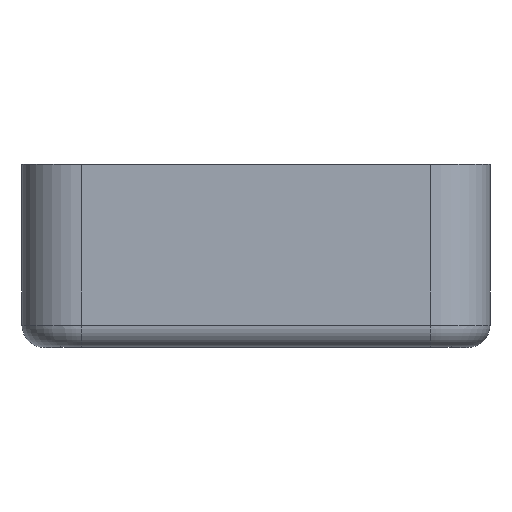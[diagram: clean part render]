
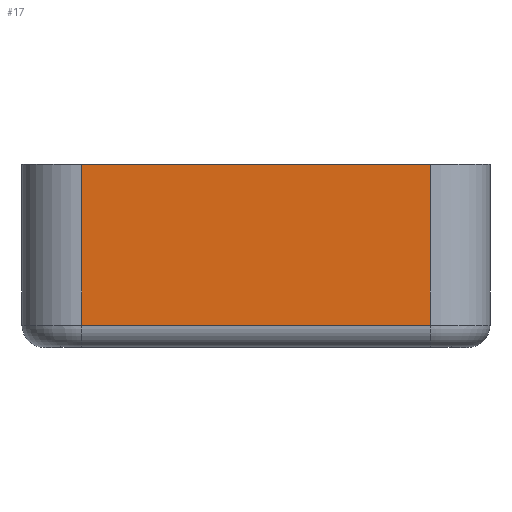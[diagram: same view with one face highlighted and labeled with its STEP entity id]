
A CAD part, left-side view. The second image highlights one B-rep face of the part: STEP entity #17.
In plain terms, the highlighted planar face has unit normal (-1, 0, 0).
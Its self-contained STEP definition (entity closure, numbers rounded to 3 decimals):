
#17 = ADVANCED_FACE('',(#18),#32,.T.);
#18 = FACE_BOUND('',#19,.T.);
#19 = EDGE_LOOP('',(#20,#55,#83,#111));
#20 = ORIENTED_EDGE('',*,*,#21,.T.);
#21 = EDGE_CURVE('',#22,#24,#26,.T.);
#22 = VERTEX_POINT('',#23);
#23 = CARTESIAN_POINT('',(-1.6,-75.895,-16.145));
#24 = VERTEX_POINT('',#25);
#25 = CARTESIAN_POINT('',(-1.6,-75.895,-5.395));
#26 = SURFACE_CURVE('',#27,(#31,#43),.PCURVE_S1.);
#27 = LINE('',#28,#29);
#28 = CARTESIAN_POINT('',(-1.6,-75.895,-17.645));
#29 = VECTOR('',#30,1.);
#30 = DIRECTION('',(0.,0.,1.));
#31 = PCURVE('',#32,#37);
#32 = PLANE('',#33);
#33 = AXIS2_PLACEMENT_3D('',#34,#35,#36);
#34 = CARTESIAN_POINT('',(-1.6,-75.895,-17.645));
#35 = DIRECTION('',(-1.,0.,0.));
#36 = DIRECTION('',(0.,1.,0.));
#37 = DEFINITIONAL_REPRESENTATION('',(#38),#42);
#38 = LINE('',#39,#40);
#39 = CARTESIAN_POINT('',(0.,0.));
#40 = VECTOR('',#41,1.);
#41 = DIRECTION('',(0.,-1.));
#42 = ( GEOMETRIC_REPRESENTATION_CONTEXT(2) 
PARAMETRIC_REPRESENTATION_CONTEXT() REPRESENTATION_CONTEXT('2D SPACE',''
  ) );
#43 = PCURVE('',#44,#49);
#44 = CYLINDRICAL_SURFACE('',#45,4.);
#45 = AXIS2_PLACEMENT_3D('',#46,#47,#48);
#46 = CARTESIAN_POINT('',(2.4,-75.895,-17.645));
#47 = DIRECTION('',(-0.,-0.,-1.));
#48 = DIRECTION('',(1.,0.,0.));
#49 = DEFINITIONAL_REPRESENTATION('',(#50),#54);
#50 = LINE('',#51,#52);
#51 = CARTESIAN_POINT('',(-3.142,0.));
#52 = VECTOR('',#53,1.);
#53 = DIRECTION('',(-0.,-1.));
#54 = ( GEOMETRIC_REPRESENTATION_CONTEXT(2) 
PARAMETRIC_REPRESENTATION_CONTEXT() REPRESENTATION_CONTEXT('2D SPACE',''
  ) );
#55 = ORIENTED_EDGE('',*,*,#56,.T.);
#56 = EDGE_CURVE('',#24,#57,#59,.T.);
#57 = VERTEX_POINT('',#58);
#58 = CARTESIAN_POINT('',(-1.6,-52.595,-5.395));
#59 = SURFACE_CURVE('',#60,(#64,#71),.PCURVE_S1.);
#60 = LINE('',#61,#62);
#61 = CARTESIAN_POINT('',(-1.6,-64.245,-5.395));
#62 = VECTOR('',#63,1.);
#63 = DIRECTION('',(0.,1.,0.));
#64 = PCURVE('',#32,#65);
#65 = DEFINITIONAL_REPRESENTATION('',(#66),#70);
#66 = LINE('',#67,#68);
#67 = CARTESIAN_POINT('',(11.65,-12.25));
#68 = VECTOR('',#69,1.);
#69 = DIRECTION('',(1.,0.));
#70 = ( GEOMETRIC_REPRESENTATION_CONTEXT(2) 
PARAMETRIC_REPRESENTATION_CONTEXT() REPRESENTATION_CONTEXT('2D SPACE',''
  ) );
#71 = PCURVE('',#72,#77);
#72 = PLANE('',#73);
#73 = AXIS2_PLACEMENT_3D('',#74,#75,#76);
#74 = CARTESIAN_POINT('',(24.,-64.245,-5.395));
#75 = DIRECTION('',(0.,0.,1.));
#76 = DIRECTION('',(1.,0.,0.));
#77 = DEFINITIONAL_REPRESENTATION('',(#78),#82);
#78 = LINE('',#79,#80);
#79 = CARTESIAN_POINT('',(-25.6,0.));
#80 = VECTOR('',#81,1.);
#81 = DIRECTION('',(0.,1.));
#82 = ( GEOMETRIC_REPRESENTATION_CONTEXT(2) 
PARAMETRIC_REPRESENTATION_CONTEXT() REPRESENTATION_CONTEXT('2D SPACE',''
  ) );
#83 = ORIENTED_EDGE('',*,*,#84,.F.);
#84 = EDGE_CURVE('',#85,#57,#87,.T.);
#85 = VERTEX_POINT('',#86);
#86 = CARTESIAN_POINT('',(-1.6,-52.595,-16.145));
#87 = SURFACE_CURVE('',#88,(#92,#99),.PCURVE_S1.);
#88 = LINE('',#89,#90);
#89 = CARTESIAN_POINT('',(-1.6,-52.595,-17.645));
#90 = VECTOR('',#91,1.);
#91 = DIRECTION('',(0.,0.,1.));
#92 = PCURVE('',#32,#93);
#93 = DEFINITIONAL_REPRESENTATION('',(#94),#98);
#94 = LINE('',#95,#96);
#95 = CARTESIAN_POINT('',(23.3,0.));
#96 = VECTOR('',#97,1.);
#97 = DIRECTION('',(0.,-1.));
#98 = ( GEOMETRIC_REPRESENTATION_CONTEXT(2) 
PARAMETRIC_REPRESENTATION_CONTEXT() REPRESENTATION_CONTEXT('2D SPACE',''
  ) );
#99 = PCURVE('',#100,#105);
#100 = CYLINDRICAL_SURFACE('',#101,4.);
#101 = AXIS2_PLACEMENT_3D('',#102,#103,#104);
#102 = CARTESIAN_POINT('',(2.4,-52.595,-17.645));
#103 = DIRECTION('',(-0.,-0.,-1.));
#104 = DIRECTION('',(1.,0.,0.));
#105 = DEFINITIONAL_REPRESENTATION('',(#106),#110);
#106 = LINE('',#107,#108);
#107 = CARTESIAN_POINT('',(-3.142,0.));
#108 = VECTOR('',#109,1.);
#109 = DIRECTION('',(-0.,-1.));
#110 = ( GEOMETRIC_REPRESENTATION_CONTEXT(2) 
PARAMETRIC_REPRESENTATION_CONTEXT() REPRESENTATION_CONTEXT('2D SPACE',''
  ) );
#111 = ORIENTED_EDGE('',*,*,#112,.F.);
#112 = EDGE_CURVE('',#22,#85,#113,.T.);
#113 = SURFACE_CURVE('',#114,(#118,#125),.PCURVE_S1.);
#114 = LINE('',#115,#116);
#115 = CARTESIAN_POINT('',(-1.6,-75.895,-16.145));
#116 = VECTOR('',#117,1.);
#117 = DIRECTION('',(0.,1.,0.));
#118 = PCURVE('',#32,#119);
#119 = DEFINITIONAL_REPRESENTATION('',(#120),#124);
#120 = LINE('',#121,#122);
#121 = CARTESIAN_POINT('',(0.,-1.5));
#122 = VECTOR('',#123,1.);
#123 = DIRECTION('',(1.,0.));
#124 = ( GEOMETRIC_REPRESENTATION_CONTEXT(2) 
PARAMETRIC_REPRESENTATION_CONTEXT() REPRESENTATION_CONTEXT('2D SPACE',''
  ) );
#125 = PCURVE('',#126,#131);
#126 = CYLINDRICAL_SURFACE('',#127,1.5);
#127 = AXIS2_PLACEMENT_3D('',#128,#129,#130);
#128 = CARTESIAN_POINT('',(-0.1,-75.895,-16.145));
#129 = DIRECTION('',(0.,1.,0.));
#130 = DIRECTION('',(-1.,0.,0.));
#131 = DEFINITIONAL_REPRESENTATION('',(#132),#136);
#132 = LINE('',#133,#134);
#133 = CARTESIAN_POINT('',(-0.,0.));
#134 = VECTOR('',#135,1.);
#135 = DIRECTION('',(-0.,1.));
#136 = ( GEOMETRIC_REPRESENTATION_CONTEXT(2) 
PARAMETRIC_REPRESENTATION_CONTEXT() REPRESENTATION_CONTEXT('2D SPACE',''
  ) );
